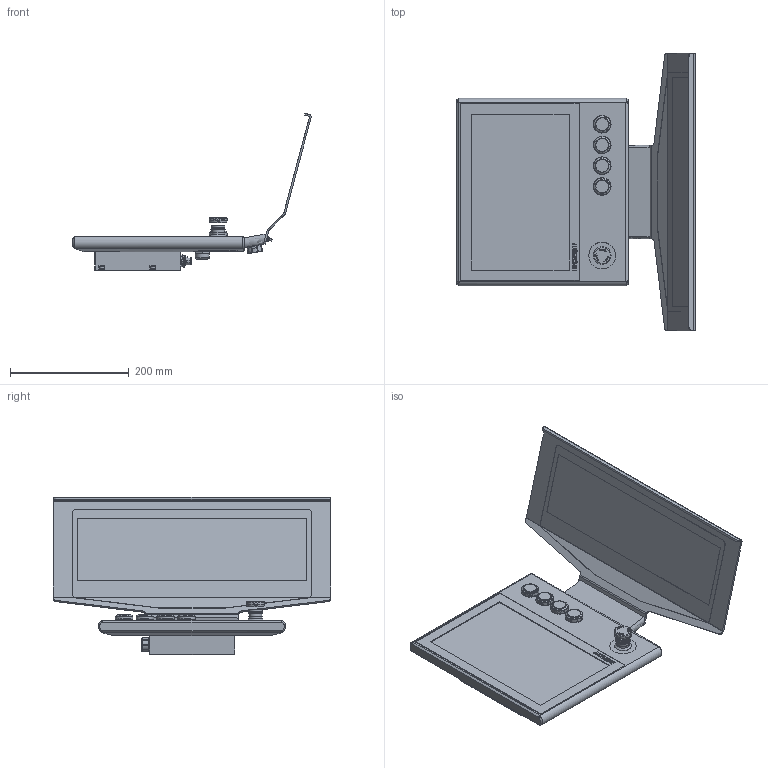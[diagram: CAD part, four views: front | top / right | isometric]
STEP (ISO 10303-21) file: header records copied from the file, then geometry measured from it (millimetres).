
FILE_DESCRIPTION(/* description */ (''),/* implementation_level */ '2;1');
FILE_NAME(/* name */ 'X:\0-inventor\0-3d-Teile\PC-Compo\solids\CP3xxx\0-Ausgabe\CP3913-G029-E274-M406-Step.stp',/* time_stamp */ '2019-06-24T11:52:03+02:00',/* author */ ('ChristianKreuzer'),/* organization */ ('Design-AG'),/* preprocessor_version */ 'ST-DEVELOPER v17.2',/* originating_system */ 'Autodesk Inventor 2019',/* authorisation */ '');
FILE_SCHEMA (('AUTOMOTIVE_DESIGN { 1 0 10303 214 3 1 1 }'));
Products named in the file (1): CP3913-G029-E274-M406
Bounding box: 402.01 x 468 x 265.4 mm (x, y, z)
Volume: 3285235.8 mm3; surface area: 532769.7 mm2
Topology: 20 solids, 27 shells, 1829 faces, 4891 edges, 3245 vertices
Faces by surface type: plane 994, cylinder 497, cone 162, torus 71, bspline 66, sphere 39
Full cylindrical faces by diameter (mm): 0.5 x8, 1 x23, 1.5 x1, 4 x2, 4.3 x1, 4.917 x4, 5 x4, 5.5 x8, 5.9 x1, 6 x9, 6.6 x1, 7.6 x2, 7.9 x1, 8 x1, 8.5 x6, 8.8 x4, 9 x3, 10 x4, 11 x2, 12 x1, 13.4 x1, 16.01 x1, 18.376 x1, 20 x2, 20.917 x1, 21.3 x1, 21.5 x1, 22 x2, 22.2 x1, 22.5 x1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
Entity records: 63068 total; most frequent: CARTESIAN_POINT 14735, DIRECTION 9770, ORIENTED_EDGE 9714, EDGE_CURVE 4857, AXIS2_PLACEMENT_3D 3524, VERTEX_POINT 3245, LINE 2722, VECTOR 2722
